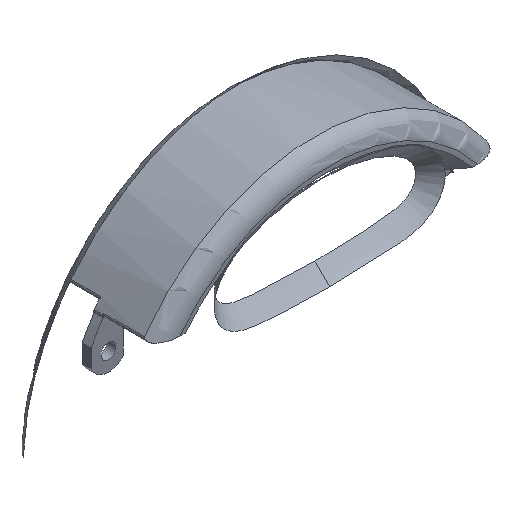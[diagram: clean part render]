
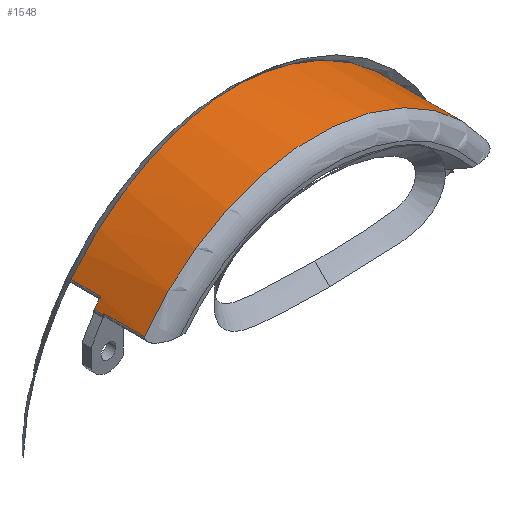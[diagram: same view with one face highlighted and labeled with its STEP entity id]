
A CAD part, isometric view. The second image highlights one B-rep face of the part: STEP entity #1548.
In plain terms, the highlighted cylindrical face has radius 28 mm (diameter 56 mm), a partial arc.
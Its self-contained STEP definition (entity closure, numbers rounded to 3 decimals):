
#357=DIRECTION('',(0.,-1.,0.));
#358=VECTOR('',#357,1.2);
#359=CARTESIAN_POINT('',(23.015,-0.1,15.948));
#360=LINE('',#359,#358);
#375=CARTESIAN_POINT('',(22.185,4.183,17.083));
#376=CARTESIAN_POINT('',(21.703,4.185,17.708));
#377=CARTESIAN_POINT('',(20.687,4.191,18.919));
#378=CARTESIAN_POINT('',(19.008,4.206,20.605));
#379=CARTESIAN_POINT('',(17.197,4.227,22.139));
#380=CARTESIAN_POINT('',(15.267,4.251,23.512));
#381=CARTESIAN_POINT('',(13.223,4.277,24.719));
#382=CARTESIAN_POINT('',(11.08,4.305,25.752));
#383=CARTESIAN_POINT('',(8.836,4.33,26.603));
#384=CARTESIAN_POINT('',(6.712,4.35,27.21));
#385=CARTESIAN_POINT('',(4.84,4.364,27.598));
#386=CARTESIAN_POINT('',(3.172,4.373,27.835));
#387=CARTESIAN_POINT('',(1.699,4.378,27.96));
#388=CARTESIAN_POINT('',(0.338,4.38,28.009));
#389=CARTESIAN_POINT('',(-1.043,4.379,27.992));
#390=CARTESIAN_POINT('',(-2.463,4.376,27.904));
#391=CARTESIAN_POINT('',(-3.878,4.369,27.742));
#392=CARTESIAN_POINT('',(-5.251,4.361,27.515));
#393=CARTESIAN_POINT('',(-6.586,4.35,27.226));
#394=CARTESIAN_POINT('',(-7.985,4.338,26.852));
#395=CARTESIAN_POINT('',(-9.571,4.321,26.334));
#396=CARTESIAN_POINT('',(-11.369,4.301,25.615));
#397=CARTESIAN_POINT('',(-13.296,4.276,24.675));
#398=CARTESIAN_POINT('',(-15.271,4.251,23.508));
#399=CARTESIAN_POINT('',(-17.197,4.226,22.139));
#400=CARTESIAN_POINT('',(-19.007,4.206,20.606));
#401=CARTESIAN_POINT('',(-20.686,4.19,18.92));
#402=CARTESIAN_POINT('',(-21.703,4.184,17.709));
#403=CARTESIAN_POINT('',(-22.185,4.183,17.083));
#405=CARTESIAN_POINT('',(0.,-0.1,0.));
#406=DIRECTION('',(0.,1.,0.));
#407=DIRECTION('',(0.792,0.,0.61));
#408=AXIS2_PLACEMENT_3D('',#405,#406,#407);
#410=CARTESIAN_POINT('',(0.,-1.3,0.));
#411=DIRECTION('',(0.,-1.,0.));
#412=DIRECTION('',(0.822,0.,0.57));
#413=AXIS2_PLACEMENT_3D('',#410,#411,#412);
#415=CARTESIAN_POINT('',(0.,-1.3,0.));
#416=DIRECTION('',(0.,-1.,0.));
#417=DIRECTION('',(-0.819,0.,0.574));
#418=AXIS2_PLACEMENT_3D('',#415,#416,#417);
#420=CARTESIAN_POINT('',(0.,-0.1,0.));
#421=DIRECTION('',(0.,1.,0.));
#422=DIRECTION('',(-0.822,0.,0.57));
#423=AXIS2_PLACEMENT_3D('',#420,#421,#422);
#438=DIRECTION('',(0.,1.,0.));
#439=VECTOR('',#438,4.283);
#440=CARTESIAN_POINT('',(-22.185,-0.1,17.083));
#441=LINE('',#440,#439);
#727=DIRECTION('',(0.,-1.,0.));
#728=VECTOR('',#727,4.283);
#729=CARTESIAN_POINT('',(22.185,4.183,17.083));
#730=LINE('',#729,#728);
#760=DIRECTION('',(0.,-1.,0.));
#761=VECTOR('',#760,5.474);
#762=CARTESIAN_POINT('',(22.928,-1.3,16.072));
#763=LINE('',#762,#761);
#764=CARTESIAN_POINT('',(0.,-6.774,
0.));
#765=DIRECTION('',(0.,1.,0.));
#766=DIRECTION('',(-0.819,0.,0.574));
#767=AXIS2_PLACEMENT_3D('',#764,#765,#766);
#769=DIRECTION('',(0.,1.,0.));
#770=VECTOR('',#769,5.474);
#771=CARTESIAN_POINT('',(-22.928,-6.774,16.072));
#772=LINE('',#771,#770);
#801=DIRECTION('',(0.,1.,0.));
#802=VECTOR('',#801,1.2);
#803=CARTESIAN_POINT('',(-23.015,-1.3,15.948));
#804=LINE('',#803,#802);
#969=CARTESIAN_POINT('',(22.928,-1.3,16.072));
#970=VERTEX_POINT('',#969);
#971=CARTESIAN_POINT('',(22.928,-6.774,16.072));
#972=VERTEX_POINT('',#971);
#974=CARTESIAN_POINT('',(-22.928,-6.774,16.072));
#975=CARTESIAN_POINT('',(-22.928,-1.3,16.072));
#976=VERTEX_POINT('',#974);
#977=VERTEX_POINT('',#975);
#984=CARTESIAN_POINT('',(-22.185,-0.1,17.083));
#985=VERTEX_POINT('',#984);
#986=CARTESIAN_POINT('',(22.185,-0.1,17.083));
#987=VERTEX_POINT('',#986);
#1012=CARTESIAN_POINT('',(23.015,-0.1,15.948));
#1013=CARTESIAN_POINT('',(23.015,-1.3,15.948));
#1014=VERTEX_POINT('',#1012);
#1015=VERTEX_POINT('',#1013);
#1020=CARTESIAN_POINT('',(-23.015,-1.3,15.948));
#1021=CARTESIAN_POINT('',(-23.015,-0.1,15.948));
#1022=VERTEX_POINT('',#1020);
#1023=VERTEX_POINT('',#1021);
#1030=VERTEX_POINT('',#375);
#1031=VERTEX_POINT('',#403);
#1522=CARTESIAN_POINT('',(0.,-8.6,0.));
#1523=DIRECTION('',(0.,1.,0.));
#1524=DIRECTION('',(1.,0.,0.));
#1525=AXIS2_PLACEMENT_3D('',#1522,#1523,#1524);
#1526=CYLINDRICAL_SURFACE('',#1525,28.);
#1528=ORIENTED_EDGE('',*,*,#1527,.F.);
#1530=ORIENTED_EDGE('',*,*,#1529,.T.);
#1531=ORIENTED_EDGE('',*,*,#1401,.T.);
#1532=ORIENTED_EDGE('',*,*,#1513,.T.);
#1533=ORIENTED_EDGE('',*,*,#1321,.T.);
#1535=ORIENTED_EDGE('',*,*,#1534,.T.);
#1537=ORIENTED_EDGE('',*,*,#1536,.F.);
#1539=ORIENTED_EDGE('',*,*,#1538,.T.);
#1540=ORIENTED_EDGE('',*,*,#1339,.T.);
#1542=ORIENTED_EDGE('',*,*,#1541,.T.);
#1543=ORIENTED_EDGE('',*,*,#1451,.T.);
#1545=ORIENTED_EDGE('',*,*,#1544,.T.);
#1546=EDGE_LOOP('',(#1528,#1530,#1531,#1532,#1533,#1535,#1537,#1539,#1540,#1542,
#1543,#1545));
#1547=FACE_OUTER_BOUND('',#1546,.F.);
#1548=ADVANCED_FACE('',(#1547),#1526,.T.);
#404=B_SPLINE_CURVE_WITH_KNOTS('',3,(#375,#376,#377,#378,#379,#380,#381,#382,
#383,#384,#385,#386,#387,#388,#389,#390,#391,#392,#393,#394,#395,#396,#397,#398,
#399,#400,#401,#402,#403),.UNSPECIFIED.,.F.,.F.,(4,1,1,1,1,1,1,1,1,1,1,1,1,1,1,
1,1,1,1,1,1,1,1,1,1,1,4),(0.,0.038,0.077,
0.115,0.154,0.192,0.231,
0.269,0.308,0.346,0.385,
0.423,0.462,0.5,0.538,0.577,
0.615,0.654,0.692,0.731,
0.769,0.808,0.846,0.885,
0.923,0.962,1.),.UNSPECIFIED.);
#409=CIRCLE('',#408,28.);
#414=CIRCLE('',#413,28.);
#419=CIRCLE('',#418,28.);
#424=CIRCLE('',#423,28.);
#768=CIRCLE('',#767,28.);
#1321=EDGE_CURVE('',#1015,#970,#414,.T.);
#1339=EDGE_CURVE('',#977,#1022,#419,.T.);
#1401=EDGE_CURVE('',#987,#1014,#409,.T.);
#1451=EDGE_CURVE('',#1023,#985,#424,.T.);
#1513=EDGE_CURVE('',#1014,#1015,#360,.T.);
#1527=EDGE_CURVE('',#1030,#1031,#404,.T.);
#1529=EDGE_CURVE('',#1030,#987,#730,.T.);
#1534=EDGE_CURVE('',#970,#972,#763,.T.);
#1536=EDGE_CURVE('',#976,#972,#768,.T.);
#1538=EDGE_CURVE('',#976,#977,#772,.T.);
#1541=EDGE_CURVE('',#1022,#1023,#804,.T.);
#1544=EDGE_CURVE('',#985,#1031,#441,.T.);
